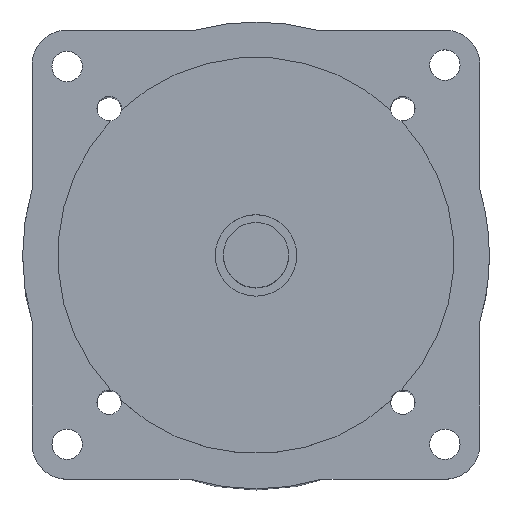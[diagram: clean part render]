
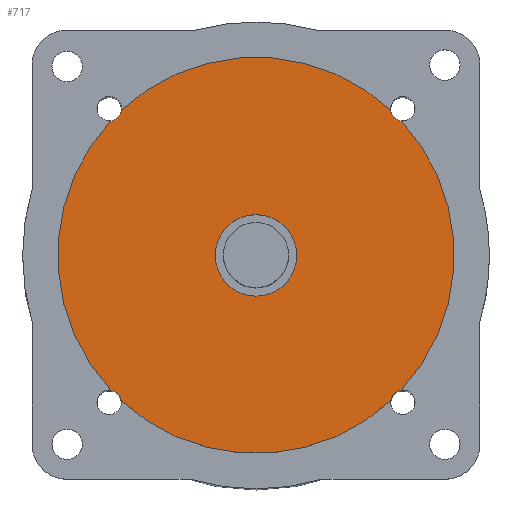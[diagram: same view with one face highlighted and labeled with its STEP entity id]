
A CAD part, top view. The second image highlights one B-rep face of the part: STEP entity #717.
In plain terms, the highlighted planar face has unit normal (0, 0, 1).
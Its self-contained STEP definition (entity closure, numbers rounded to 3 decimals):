
#25=FACE_BOUND('',#117,.T.);
#44=PLANE('',#817);
#70=FACE_OUTER_BOUND('',#116,.T.);
#116=EDGE_LOOP('',(#604,#605,#606,#607,#608,#609,#610,#611));
#117=EDGE_LOOP('',(#612));
#237=CIRCLE('',#752,36.5);
#239=CIRCLE('',#755,36.5);
#240=CIRCLE('',#757,36.5);
#279=CIRCLE('',#816,36.5);
#280=CIRCLE('',#818,2.25);
#281=CIRCLE('',#819,2.25);
#282=CIRCLE('',#820,2.25);
#283=CIRCLE('',#821,2.25);
#284=CIRCLE('',#822,7.5);
#292=VERTEX_POINT('',#1078);
#293=VERTEX_POINT('',#1080);
#296=VERTEX_POINT('',#1087);
#297=VERTEX_POINT('',#1089);
#298=VERTEX_POINT('',#1093);
#299=VERTEX_POINT('',#1094);
#352=VERTEX_POINT('',#1241);
#353=VERTEX_POINT('',#1242);
#354=VERTEX_POINT('',#1251);
#362=EDGE_CURVE('',#293,#292,#237,.T.);
#366=EDGE_CURVE('',#297,#296,#239,.T.);
#368=EDGE_CURVE('',#298,#299,#240,.T.);
#442=EDGE_CURVE('',#352,#353,#279,.T.);
#445=EDGE_CURVE('',#298,#292,#280,.T.);
#446=EDGE_CURVE('',#352,#299,#281,.T.);
#447=EDGE_CURVE('',#297,#353,#282,.T.);
#448=EDGE_CURVE('',#293,#296,#283,.T.);
#449=EDGE_CURVE('',#354,#354,#284,.T.);
#604=ORIENTED_EDGE('',*,*,#445,.F.);
#605=ORIENTED_EDGE('',*,*,#368,.T.);
#606=ORIENTED_EDGE('',*,*,#446,.F.);
#607=ORIENTED_EDGE('',*,*,#442,.T.);
#608=ORIENTED_EDGE('',*,*,#447,.F.);
#609=ORIENTED_EDGE('',*,*,#366,.T.);
#610=ORIENTED_EDGE('',*,*,#448,.F.);
#611=ORIENTED_EDGE('',*,*,#362,.T.);
#612=ORIENTED_EDGE('',*,*,#449,.F.);
#717=ADVANCED_FACE('',(#70,#25),#44,.T.);
#752=AXIS2_PLACEMENT_3D('',#1081,#847,#848);
#755=AXIS2_PLACEMENT_3D('',#1090,#855,#856);
#757=AXIS2_PLACEMENT_3D('',#1095,#860,#861);
#816=AXIS2_PLACEMENT_3D('',#1243,#1013,#1014);
#817=AXIS2_PLACEMENT_3D('',#1246,#1017,#1018);
#818=AXIS2_PLACEMENT_3D('',#1247,#1019,#1020);
#819=AXIS2_PLACEMENT_3D('',#1248,#1021,#1022);
#820=AXIS2_PLACEMENT_3D('',#1249,#1023,#1024);
#821=AXIS2_PLACEMENT_3D('',#1250,#1025,#1026);
#822=AXIS2_PLACEMENT_3D('',#1252,#1027,#1028);
#847=DIRECTION('center_axis',(0.,0.,1.));
#848=DIRECTION('ref_axis',(1.,0.,0.));
#855=DIRECTION('center_axis',(0.,0.,1.));
#856=DIRECTION('ref_axis',(1.,0.,0.));
#860=DIRECTION('center_axis',(0.,0.,1.));
#861=DIRECTION('ref_axis',(1.,0.,0.));
#1013=DIRECTION('center_axis',(0.,0.,1.));
#1014=DIRECTION('ref_axis',(1.,0.,0.));
#1017=DIRECTION('center_axis',(0.,0.,1.));
#1018=DIRECTION('ref_axis',(1.,0.,0.));
#1019=DIRECTION('center_axis',(0.,0.,1.));
#1020=DIRECTION('ref_axis',(1.,0.,0.));
#1021=DIRECTION('center_axis',(0.,0.,1.));
#1022=DIRECTION('ref_axis',(1.,0.,0.));
#1023=DIRECTION('center_axis',(0.,0.,1.));
#1024=DIRECTION('ref_axis',(1.,0.,0.));
#1025=DIRECTION('center_axis',(0.,0.,1.));
#1026=DIRECTION('ref_axis',(1.,0.,0.));
#1027=DIRECTION('center_axis',(0.,0.,1.));
#1028=DIRECTION('ref_axis',(1.,0.,0.));
#1078=CARTESIAN_POINT('',(24.814,-26.768,7.6));
#1080=CARTESIAN_POINT('',(-24.814,-26.768,7.6));
#1081=CARTESIAN_POINT('Origin',(0.,0.,7.6));
#1087=CARTESIAN_POINT('',(-26.768,-24.814,7.6));
#1089=CARTESIAN_POINT('',(-26.768,24.814,7.6));
#1090=CARTESIAN_POINT('Origin',(0.,0.,7.6));
#1093=CARTESIAN_POINT('',(26.768,-24.814,7.6));
#1094=CARTESIAN_POINT('',(26.768,24.814,7.6));
#1095=CARTESIAN_POINT('Origin',(0.,0.,7.6));
#1241=CARTESIAN_POINT('',(24.814,26.768,7.6));
#1242=CARTESIAN_POINT('',(-24.814,26.768,7.6));
#1243=CARTESIAN_POINT('Origin',(0.,0.,7.6));
#1246=CARTESIAN_POINT('Origin',(0.,0.,7.6));
#1247=CARTESIAN_POINT('Origin',(27.047,-27.047,7.6));
#1248=CARTESIAN_POINT('Origin',(27.047,27.047,7.6));
#1249=CARTESIAN_POINT('Origin',(-27.047,27.047,7.6));
#1250=CARTESIAN_POINT('Origin',(-27.047,-27.047,7.6));
#1251=CARTESIAN_POINT('',(-7.5,0.,7.6));
#1252=CARTESIAN_POINT('Origin',(0.,0.,7.6));
